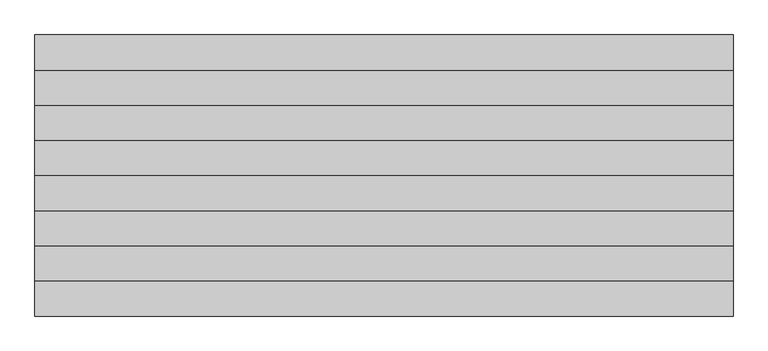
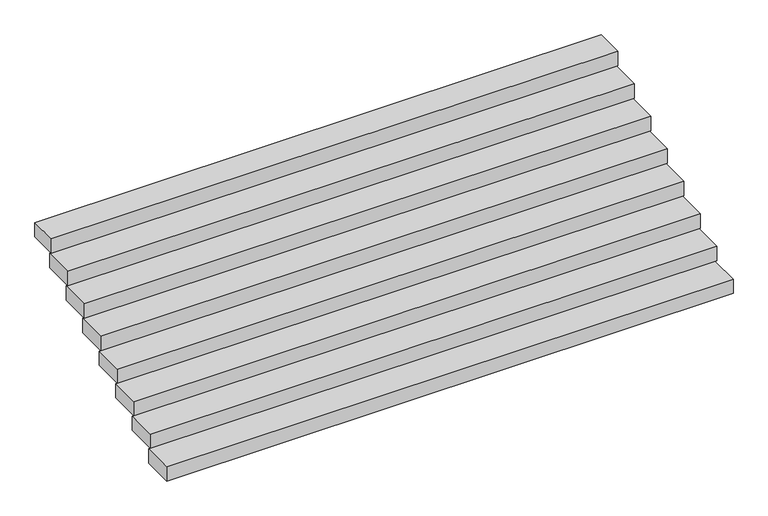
"""IFC4 building model written with IfcOpenShell, lengths in millimetres: stair flight geometry, Peldaños de piedra."""

from ifc_helpers import new_model, si_unit, frame, origin, place, context, project, spatial, polyline, outline, extrude, source, transform, mapped, element, save


def stair_flight_0d7ca2d1(model_context):
    return source(origin(), model_context, "Body", "SweptSolid", [
        extrude(outline(polyline([(2101.6012558, -11472.6669037), (8061.6012558, -11472.6669037), (8061.6012558, -11802.6669037), (2101.6012558, -11802.6669037), (2101.6012558, -11472.6669037)])), frame((0.0, 0.0, -1320.0), z_axis=(0.0, 0.0, 1.0), x_axis=(1.0, 0.0, 0.0)), (0.0, 0.0, 1.0), 160.0),
        extrude(outline(polyline([(2101.6012558, -11172.6669037), (8061.6012558, -11172.6669037), (8061.6012558, -11502.6669037), (2101.6012558, -11502.6669037), (2101.6012558, -11172.6669037)])), frame((0.0, 0.0, -1140.0), z_axis=(0.0, 0.0, 1.0), x_axis=(1.0, 0.0, 0.0)), (0.0, 0.0, 1.0), 160.0),
        extrude(outline(polyline([(2101.6012558, -10872.6669037), (8061.6012558, -10872.6669037), (8061.6012558, -11202.6669037), (2101.6012558, -11202.6669037), (2101.6012558, -10872.6669037)])), frame((0.0, 0.0, -960.0), z_axis=(0.0, 0.0, 1.0), x_axis=(1.0, 0.0, 0.0)), (0.0, 0.0, 1.0), 160.0),
        extrude(outline(polyline([(2101.6012558, -10572.6669037), (8061.6012558, -10572.6669037), (8061.6012558, -10902.6669037), (2101.6012558, -10902.6669037), (2101.6012558, -10572.6669037)])), frame((0.0, 0.0, -780.0), z_axis=(0.0, 0.0, 1.0), x_axis=(1.0, 0.0, 0.0)), (0.0, 0.0, 1.0), 160.0),
        extrude(outline(polyline([(2101.6012558, -10272.6669037), (8061.6012558, -10272.6669037), (8061.6012558, -10602.6669037), (2101.6012558, -10602.6669037), (2101.6012558, -10272.6669037)])), frame((0.0, 0.0, -600.0), z_axis=(0.0, 0.0, 1.0), x_axis=(1.0, 0.0, 0.0)), (0.0, 0.0, 1.0), 160.0),
        extrude(outline(polyline([(2101.6012558, -9972.6669037), (8061.6012558, -9972.6669037), (8061.6012558, -10302.6669037), (2101.6012558, -10302.6669037), (2101.6012558, -9972.6669037)])), frame((0.0, 0.0, -420.0), z_axis=(0.0, 0.0, 1.0), x_axis=(1.0, 0.0, 0.0)), (0.0, 0.0, 1.0), 160.0),
        extrude(outline(polyline([(2101.6012558, -9672.6669037), (8061.6012558, -9672.6669037), (8061.6012558, -10002.6669037), (2101.6012558, -10002.6669037), (2101.6012558, -9672.6669037)])), frame((0.0, 0.0, -240.0), z_axis=(0.0, 0.0, 1.0), x_axis=(1.0, 0.0, 0.0)), (0.0, 0.0, 1.0), 160.0),
        extrude(outline(polyline([(2101.6012558, -9402.6669037), (8061.6012558, -9402.6669037), (8061.6012558, -9702.6669037), (2101.6012558, -9702.6669037), (2101.6012558, -9402.6669037)])), frame((0.0, 0.0, -60.0), z_axis=(0.0, 0.0, 1.0), x_axis=(1.0, 0.0, 0.0)), (0.0, 0.0, 1.0), 160.0),
    ])


if __name__ == "__main__":
    model = new_model("IFC4")
    model_context = context("Model", 3, world=origin())
    ifc_project = project(units=[si_unit("LENGTHUNIT", "METRE", prefix="MILLI")], contexts=[model_context])
    site = spatial("IfcSite", under=ifc_project)
    building = spatial("IfcBuilding", under=site)
    placement = place(None, origin())
    stair_flight_shape = stair_flight_0d7ca2d1(model_context)
    element("IfcStairFlight", 1, ObjectType="Peldaños de piedra", at=placement, inside=building, context=model_context, shape_type="MappedRepresentation", body=[
        mapped(stair_flight_shape, transform((0.0, 0.0, 0.0), x_axis=(1.0, 0.0, 0.0), y_axis=(0.0, 1.0, 0.0), z_axis=(0.0, 0.0, 1.0))),
    ])
    save(model, "model.ifc")
